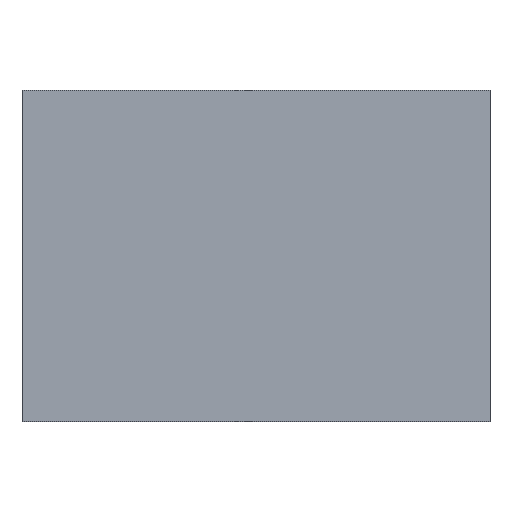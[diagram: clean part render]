
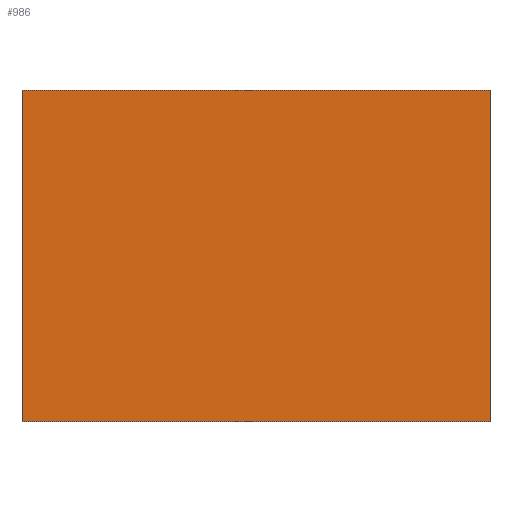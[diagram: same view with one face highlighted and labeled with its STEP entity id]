
A CAD part, top view. The second image highlights one B-rep face of the part: STEP entity #986.
In plain terms, the highlighted planar face has unit normal (0, 0, 1).
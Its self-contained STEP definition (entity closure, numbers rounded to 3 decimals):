
#51 = DIRECTION ( 'NONE',  ( 0., 0., -1. ) ) ;
#53 = VERTEX_POINT ( 'NONE', #780 ) ;
#69 = VECTOR ( 'NONE', #982, 1000. ) ;
#70 = CARTESIAN_POINT ( 'NONE',  ( 65., 23., 23. ) ) ;
#119 = VERTEX_POINT ( 'NONE', #242 ) ;
#132 = EDGE_CURVE ( 'NONE', #53, #119, #495, .T. ) ;
#207 = ORIENTED_EDGE ( 'NONE', *, *, #598, .F. ) ;
#242 = CARTESIAN_POINT ( 'NONE',  ( 0., -23., 23. ) ) ;
#272 = FACE_OUTER_BOUND ( 'NONE', #371, .T. ) ;
#298 = CARTESIAN_POINT ( 'NONE',  ( 65., 23., 23. ) ) ;
#345 = VECTOR ( 'NONE', #684, 1000. ) ;
#371 = EDGE_LOOP ( 'NONE', ( #1027, #207, #608, #676 ) ) ;
#372 = EDGE_CURVE ( 'NONE', #1002, #907, #609, .T. ) ;
#385 = CARTESIAN_POINT ( 'NONE',  ( 65., -23., 23. ) ) ;
#492 = AXIS2_PLACEMENT_3D ( 'NONE', #385, #51, #790 ) ;
#495 = LINE ( 'NONE', #879, #884 ) ;
#574 = DIRECTION ( 'NONE',  ( 0., -1., 0. ) ) ;
#598 = EDGE_CURVE ( 'NONE', #907, #119, #671, .T. ) ;
#608 = ORIENTED_EDGE ( 'NONE', *, *, #372, .F. ) ;
#609 = LINE ( 'NONE', #691, #345 ) ;
#655 = CARTESIAN_POINT ( 'NONE',  ( 65., -23., 23. ) ) ;
#671 = LINE ( 'NONE', #988, #69 ) ;
#676 = ORIENTED_EDGE ( 'NONE', *, *, #756, .T. ) ;
#684 = DIRECTION ( 'NONE',  ( 0., -1., 0. ) ) ;
#691 = CARTESIAN_POINT ( 'NONE',  ( 65., -23., 23. ) ) ;
#713 = LINE ( 'NONE', #70, #976 ) ;
#756 = EDGE_CURVE ( 'NONE', #1002, #53, #713, .T. ) ;
#780 = CARTESIAN_POINT ( 'NONE',  ( 0., 23., 23. ) ) ;
#790 = DIRECTION ( 'NONE',  ( -1., 0., 0. ) ) ;
#846 = PLANE ( 'NONE',  #492 ) ;
#879 = CARTESIAN_POINT ( 'NONE',  ( 0., -23., 23. ) ) ;
#884 = VECTOR ( 'NONE', #574, 1000. ) ;
#907 = VERTEX_POINT ( 'NONE', #655 ) ;
#976 = VECTOR ( 'NONE', #1009, 1000. ) ;
#982 = DIRECTION ( 'NONE',  ( -1., 0., 0. ) ) ;
#986 = ADVANCED_FACE ( 'NONE', ( #272 ), #846, .F. ) ;
#988 = CARTESIAN_POINT ( 'NONE',  ( 65., -23., 23. ) ) ;
#1002 = VERTEX_POINT ( 'NONE', #298 ) ;
#1009 = DIRECTION ( 'NONE',  ( -1., 0., 0. ) ) ;
#1027 = ORIENTED_EDGE ( 'NONE', *, *, #132, .T. ) ;
